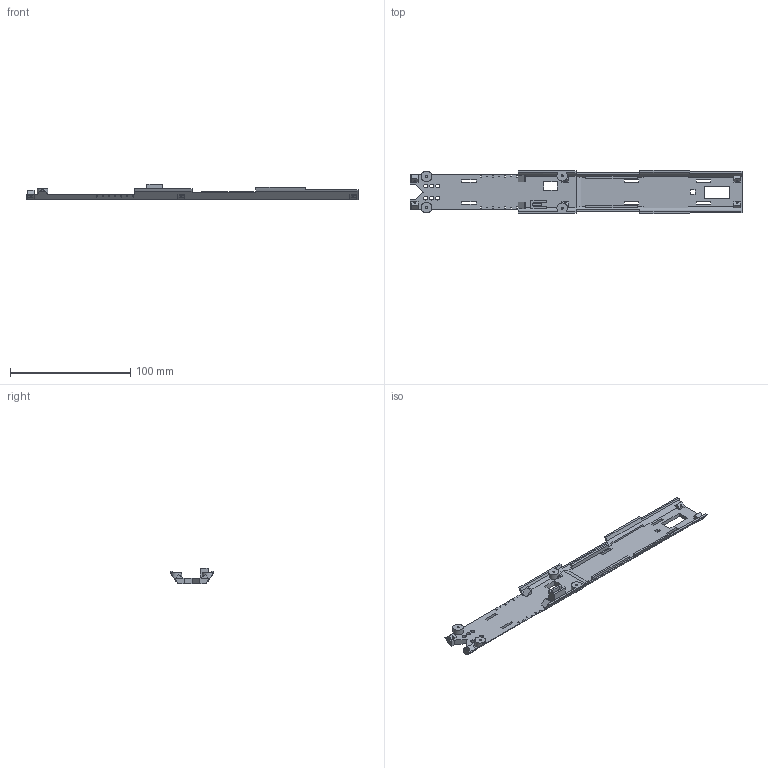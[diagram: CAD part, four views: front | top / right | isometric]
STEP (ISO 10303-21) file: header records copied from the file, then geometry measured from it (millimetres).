
FILE_DESCRIPTION(('SkyG Speed 90B - revision C6B-21 - 2026-10-16','TR-equipment-tray'),'2;1');
FILE_NAME('TR-equipment-tray_C6B-21','2026-10-16T11:47:24',('Author'),( 'Open CASCADE'),'Open CASCADE STEP processor 7.9','Open CASCADE 7.9' ,'Unknown');
FILE_SCHEMA(('AUTOMOTIVE_DESIGN { 1 0 10303 214 1 1 1 1 }'));
Length unit declared in the file: millimetre
Products named in the file (1): TR-equipment-tray C6B-21
Bounding box: 276 x 36.14 x 12.7 mm (x, y, z)
Volume: 29455 mm3; surface area: 23473.4 mm2
Topology: 1 solids, 1 shells, 291 faces, 878 edges, 587 vertices
Faces by surface type: plane 239, cylinder 52
Full cylindrical faces by diameter (mm): 1.6 x4, 3.3 x6, 8.8 x2
Entity records: 22058 total; most frequent: CARTESIAN_POINT 5926, DIRECTION 2556, ORIENTED_EDGE 1756, PCURVE 1756, DEFINITIONAL_REPRESENTATION 1756, LINE 1591, VECTOR 1591, EDGE_CURVE 878
